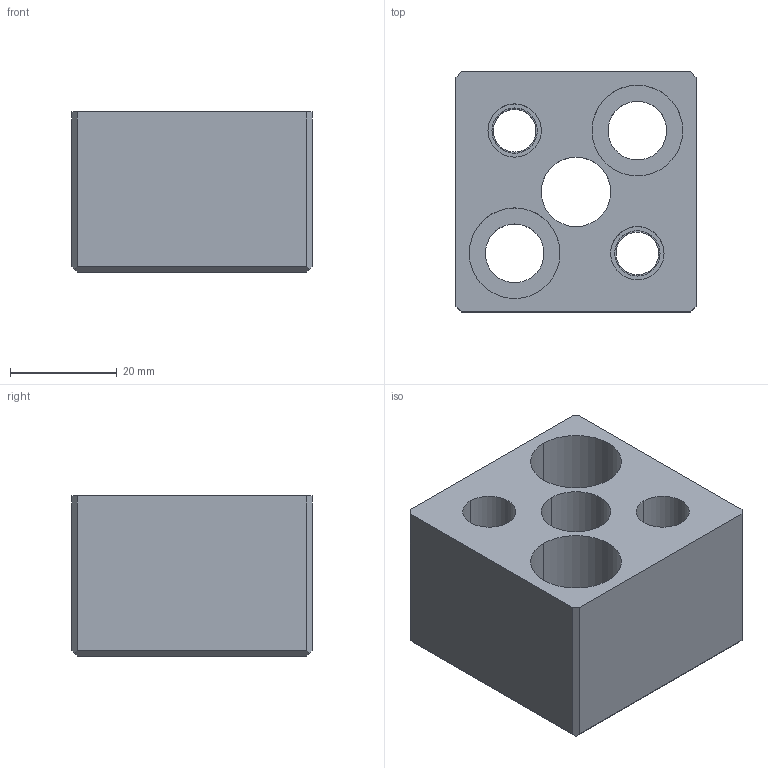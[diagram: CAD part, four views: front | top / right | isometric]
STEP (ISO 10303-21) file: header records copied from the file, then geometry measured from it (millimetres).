
FILE_DESCRIPTION(/* description */ (''),/* implementation_level */ '2;1');
FILE_NAME(/* name */ '3d_sa-an13_05033_r00.stp',/* time_stamp */ '2011-01-10T14:11:30+09:00',/* author */ ('MISUMI'),/* organization */ (''),/* preprocessor_version */ 'ST-DEVELOPER v11',/* originating_system */ 'UGS - NX 5.0',/* authorisation */ '');
FILE_SCHEMA (('CONFIG_CONTROL_DESIGN'));
Length unit declared in the file: millimetre
Products named in the file (1): 3d_sa-an13_05033_r00
Bounding box: 45 x 45 x 30 mm (x, y, z)
Volume: 42685.3 mm3; surface area: 13993.4 mm2
Topology: 1 solids, 1 shells, 47 faces, 112 edges, 74 vertices
Faces by surface type: cylinder 24, plane 21, cone 2
Entity records: 1486 total; most frequent: DIRECTION 258, CARTESIAN_POINT 234, ORIENTED_EDGE 224, EDGE_CURVE 112, AXIS2_PLACEMENT_3D 98, VERTEX_POINT 74, EDGE_LOOP 64, LINE 62
